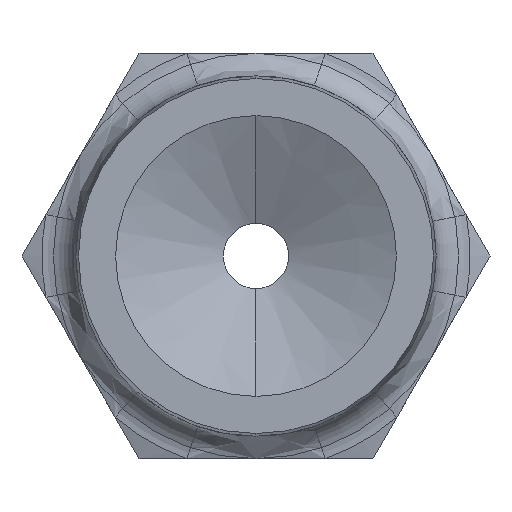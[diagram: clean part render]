
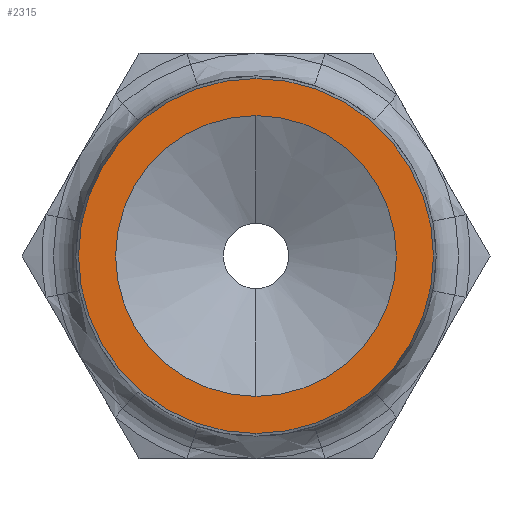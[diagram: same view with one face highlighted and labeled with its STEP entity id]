
A CAD part, left-side view. The second image highlights one B-rep face of the part: STEP entity #2315.
In plain terms, the highlighted planar face has unit normal (-1, 0, 0).
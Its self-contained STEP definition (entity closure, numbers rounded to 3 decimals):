
#95 = VERTEX_POINT ( 'NONE', #793 ) ;
#97 = EDGE_CURVE ( 'NONE', #95, #98, #874, .T. ) ;
#98 = VERTEX_POINT ( 'NONE', #879 ) ;
#152 = EDGE_CURVE ( 'NONE', #153, #154, #867, .T. ) ;
#153 = VERTEX_POINT ( 'NONE', #862 ) ;
#154 = VERTEX_POINT ( 'NONE', #861 ) ;
#233 = ORIENTED_EDGE ( 'NONE', *, *, #152, .T. ) ;
#234 = EDGE_LOOP ( 'NONE', ( #235, #237 ) ) ;
#235 = ORIENTED_EDGE ( 'NONE', *, *, #236, .F. ) ;
#236 = EDGE_CURVE ( 'NONE', #98, #95, #963, .T. ) ;
#237 = ORIENTED_EDGE ( 'NONE', *, *, #97, .F. ) ;
#248 = EDGE_LOOP ( 'NONE', ( #2316, #233 ) ) ;
#793 = CARTESIAN_POINT ( 'NONE',  ( -23.5, 0., -4.95 ) ) ;
#861 = CARTESIAN_POINT ( 'NONE',  ( -23.5, 0., 6.259 ) ) ;
#862 = CARTESIAN_POINT ( 'NONE',  ( -23.5, 0., -6.259 ) ) ;
#863 = DIRECTION ( 'NONE',  ( 0., 0., 1. ) ) ;
#864 = DIRECTION ( 'NONE',  ( -1., 0., 0. ) ) ;
#865 = CARTESIAN_POINT ( 'NONE',  ( -23.5, 0., 0. ) ) ;
#866 = AXIS2_PLACEMENT_3D ( 'NONE', #865, #864, #863 ) ;
#867 = CIRCLE ( 'NONE', #866, 6.259 ) ;
#870 = DIRECTION ( 'NONE',  ( 0., 0., 1. ) ) ;
#871 = DIRECTION ( 'NONE',  ( -1., 0., 0. ) ) ;
#872 = CARTESIAN_POINT ( 'NONE',  ( -23.5, 0., 0. ) ) ;
#873 = AXIS2_PLACEMENT_3D ( 'NONE', #872, #871, #870 ) ;
#874 = CIRCLE ( 'NONE', #873, 4.95 ) ;
#879 = CARTESIAN_POINT ( 'NONE',  ( -23.5, 0., 4.95 ) ) ;
#959 = DIRECTION ( 'NONE',  ( 0., 0., 1. ) ) ;
#960 = DIRECTION ( 'NONE',  ( -1., 0., 0. ) ) ;
#961 = CARTESIAN_POINT ( 'NONE',  ( -23.5, 0., 0. ) ) ;
#962 = AXIS2_PLACEMENT_3D ( 'NONE', #961, #960, #959 ) ;
#963 = CIRCLE ( 'NONE', #962, 4.95 ) ;
#1137 = CARTESIAN_POINT ( 'NONE',  ( -23.5, 0., 0. ) ) ;
#1139 = DIRECTION ( 'NONE',  ( -1., 0., 0. ) ) ;
#1408 = DIRECTION ( 'NONE',  ( 0., 0., 1. ) ) ;
#1535 = PLANE ( 'NONE',  #1537 ) ;
#1537 = AXIS2_PLACEMENT_3D ( 'NONE', #1137, #1139, #1408 ) ;
#1538 = FACE_BOUND ( 'NONE', #234, .T. ) ;
#1542 = FACE_OUTER_BOUND ( 'NONE', #248, .T. ) ;
#1730 = DIRECTION ( 'NONE',  ( 0., 0., 1. ) ) ;
#1731 = DIRECTION ( 'NONE',  ( -1., 0., 0. ) ) ;
#1732 = CARTESIAN_POINT ( 'NONE',  ( -23.5, 0., 0. ) ) ;
#1865 = CIRCLE ( 'NONE', #1866, 6.259 ) ;
#1866 = AXIS2_PLACEMENT_3D ( 'NONE', #1732, #1731, #1730 ) ;
#2315 = ADVANCED_FACE ( 'NONE', ( #1542, #1538 ), #1535, .T. ) ;
#2316 = ORIENTED_EDGE ( 'NONE', *, *, #2317, .T. ) ;
#2317 = EDGE_CURVE ( 'NONE', #154, #153, #1865, .T. ) ;
